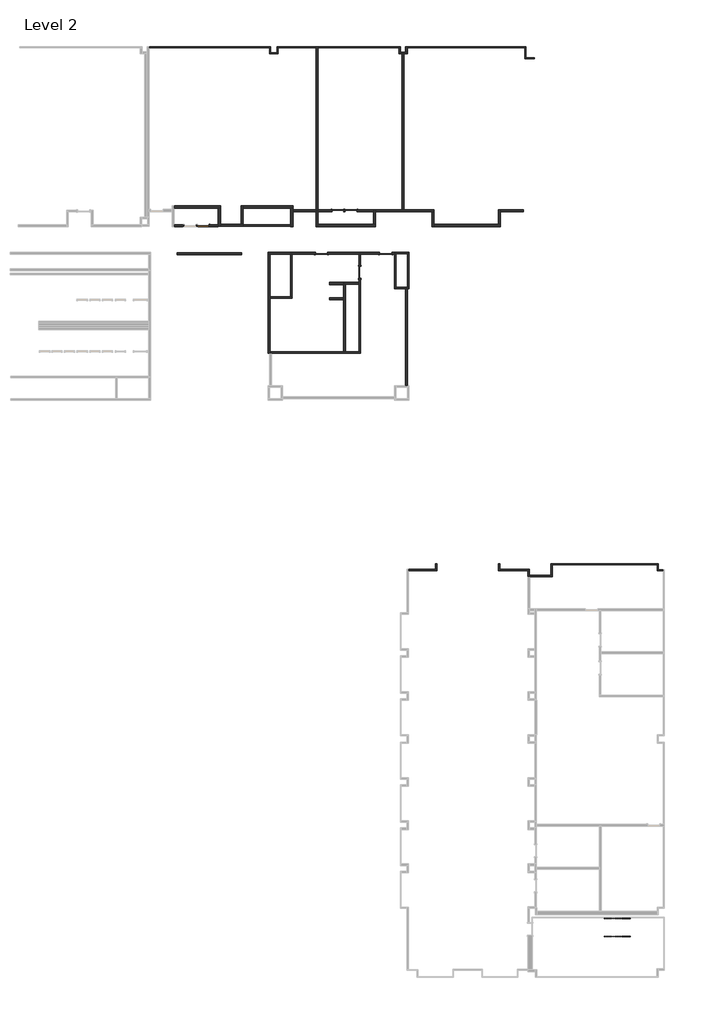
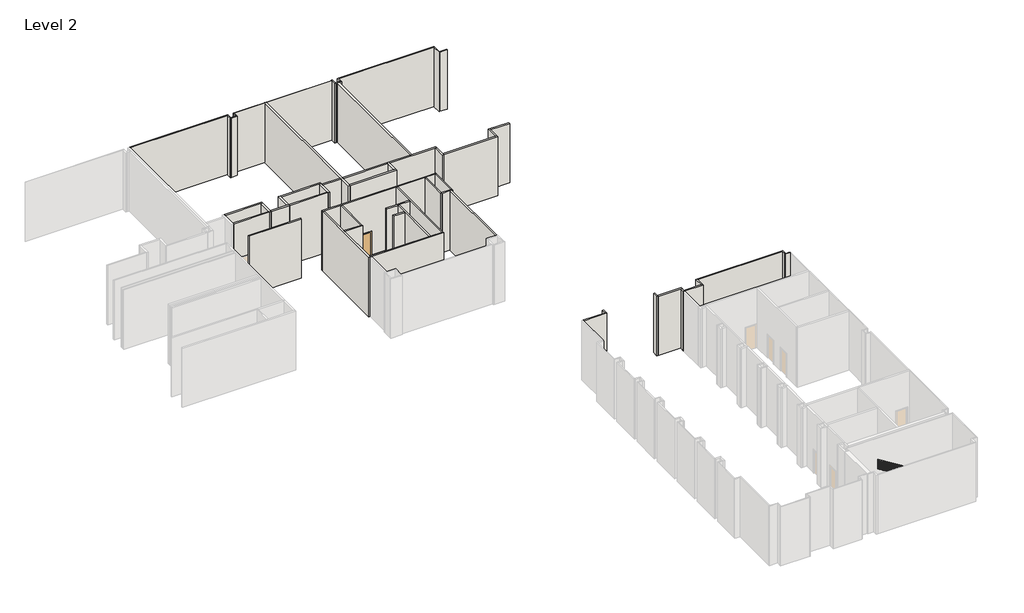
# One storey, part 9 of 9: 56 walls, 6 doors, 2 railings.
"""IFC4 building model written with IfcOpenShell, lengths in millimetres."""

from ifc_helpers import new_model, si_unit, frame, origin, place, context, project, spatial, polyline, outline, extrude, faceted_brep, transform, mapped, element, save
from components import door_7c9e1b45, door_3b0d1d25, handrail_rectangular_8bdb5d3b, handrail_rectangular_f2522c41

model = new_model("IFC4")

# Units and contexts
model_context = context("Model", 3, world=origin())
ifc_project = project(units=[si_unit("LENGTHUNIT", "METRE", prefix="MILLI")], contexts=[model_context])

# Site, building, storey
site = spatial("IfcSite", under=ifc_project)
building = spatial("IfcBuilding", under=site)
storey = spatial("IfcBuildingStorey", under=building, Name="Level 2", Elevation=5486.4)

# Doors
placement = place(None, origin())
door_shape = door_7c9e1b45(model_context)
element("IfcDoor", 1, ObjectType="Single-Flush : 34\" x 84\"", at=placement, inside=storey, context=model_context, shape_type="MappedRepresentation", body=[
    mapped(door_shape, transform((73231.7190091, 23256.6831101, 5486.4), x_axis=(-1.0, 0.0, 0.0), y_axis=(0.0, -1.0, 0.0), z_axis=(0.0, 0.0, 1.0))),
])
door_2_shape = door_3b0d1d25(model_context)
element("IfcDoor", 2, ObjectType="Single-Flush : 34\" x 84\"", at=placement, inside=storey, context=model_context, shape_type="MappedRepresentation", body=[
    mapped(door_2_shape, transform((64859.2254373, 25210.8956105, 5486.4), x_axis=(1.0, 0.0, 0.0), y_axis=(0.0, 1.0, 0.0), z_axis=(0.0, 0.0, 1.0))),
])
element("IfcDoor", 3, ObjectType="Single-Flush : 34\" x 84\"", at=placement, inside=storey, context=model_context, shape_type="MappedRepresentation", body=[
    mapped(door_2_shape, transform((74404.8815091, 26277.6956105, 5486.4), x_axis=(-1.0, 0.0, 0.0), y_axis=(0.0, -1.0, 0.0), z_axis=(0.0, 0.0, 1.0))),
])
element("IfcDoor", 4, ObjectType="Single-Flush : 34\" x 84\"", at=placement, inside=storey, context=model_context, shape_type="MappedRepresentation", body=[
    mapped(door_shape, transform((75319.2815091, 26277.6956105, 5486.4), x_axis=(1.0, 0.0, 0.0), y_axis=(0.0, 1.0, 0.0), z_axis=(0.0, 0.0, 1.0))),
])
element("IfcDoor", 5, ObjectType="Single-Flush : 34\" x 84\"", at=placement, inside=storey, context=model_context, shape_type="MappedRepresentation", body=[
    mapped(door_2_shape, transform((77791.6281574, 23256.6831101, 5486.4), x_axis=(1.0, 0.0, 0.0), y_axis=(0.0, 1.0, 0.0), z_axis=(0.0, 0.0, 1.0))),
])
element("IfcDoor", 6, ObjectType="Single-Flush : 34\" x 84\"", at=placement, inside=storey, context=model_context, shape_type="MappedRepresentation", body=[
    mapped(door_2_shape, transform((75949.5004373, 21910.4831102, 5486.4), x_axis=(0.0, -1.0, 0.0), y_axis=(1.0, 0.0, 0.0), z_axis=(0.0, 0.0, 1.0))),
])

# Railings
handrail_rectangular_shape = handrail_rectangular_8bdb5d3b(model_context)
element("IfcRailing", 7, ObjectType="Handrail - Rectangular", at=placement, inside=storey, context=model_context, shape_type="MappedRepresentation", body=[
    mapped(handrail_rectangular_shape, transform((0.0, 0.0, 0.0), x_axis=(1.0, 0.0, 0.0), y_axis=(0.0, 1.0, 0.0), z_axis=(0.0, 0.0, 1.0))),
])
handrail_rectangular_2_shape = handrail_rectangular_f2522c41(model_context)
element("IfcRailing", 8, ObjectType="Handrail - Rectangular", at=placement, inside=storey, context=model_context, shape_type="MappedRepresentation", body=[
    mapped(handrail_rectangular_2_shape, transform((0.0, 0.0, 0.0), x_axis=(1.0, 0.0, 0.0), y_axis=(0.0, 1.0, 0.0), z_axis=(0.0, 0.0, 1.0))),
])

# Walls
element("IfcWall", 9, ObjectType="N3A/B", at=placement, inside=storey, context=model_context, shape_type="Brep", body=[
    faceted_brep([(62803.4129373, 26453.9081341, 5486.4), (65932.3754373, 26453.9081341, 5486.4), (66087.9504373, 26453.9081341, 5486.4), (66087.9504373, 26453.9081341, 10972.8), (65932.3754373, 26453.9081341, 10972.8), (62803.4129373, 26453.9081341, 10972.8), (62803.4129373, 26609.4831341, 5486.4), (62803.4129373, 26609.4831341, 10972.8), (66087.9504373, 26609.4831341, 10972.8), (66087.9504373, 26609.4831341, 5486.4)], [[[0, 1, 2, 3, 4, 5]], [[6, 7, 8, 9]], [[2, 1, 0, 6, 9]], [[5, 4, 3, 8, 7]], [[3, 2, 9, 8]], [[0, 5, 7, 6]]]),
])
element("IfcWall", 10, ObjectType="N3A/B", at=placement, inside=storey, context=model_context, shape_type="Brep", body=[
    faceted_brep([(65932.3754373, 26453.9081341, 5486.4), (65932.3754373, 25272.8081105, 5486.4), (65932.3754373, 25161.6831105, 5486.4), (65932.3754373, 25161.6831105, 10972.8), (65932.3754373, 25272.8081105, 10972.8), (65932.3754373, 26453.9081341, 10972.8), (66087.9504373, 26453.9081341, 5486.4), (66087.9504373, 26453.9081341, 10972.8), (66087.9504373, 25317.2581105, 10972.8), (66087.9504373, 25161.6831105, 10972.8), (66087.9504373, 25161.6831105, 5486.4), (66087.9504373, 25317.2581105, 5486.4)], [[[0, 1, 2, 3, 4, 5]], [[6, 7, 8, 9, 10, 11]], [[2, 1, 0, 6, 11, 10]], [[5, 4, 3, 9, 8, 7]], [[3, 2, 10, 9]], [[0, 5, 7, 6]]]),
])
element("IfcWall", 11, ObjectType="N3A/B", at=placement, inside=storey, context=model_context, shape_type="Brep", body=[
    faceted_brep([(66087.9504373, 25161.6831105, 5486.4), (67704.0254373, 25161.6831105, 5486.4), (67704.0254373, 25161.6831105, 10972.8), (66087.9504373, 25161.6831105, 10972.8), (66087.9504373, 25317.2581105, 5486.4), (66087.9504373, 25317.2581105, 10972.8), (67548.4504373, 25317.2581105, 10972.8), (67704.0254373, 25317.2581105, 10972.8), (67704.0254373, 25317.2581105, 5486.4), (67548.4504373, 25317.2581105, 5486.4), (67704.0254373, 25264.8706105, 5486.4), (67704.0254373, 25264.8706105, 10972.8)], [[[0, 1, 2, 3]], [[4, 5, 6, 7, 8, 9]], [[1, 0, 4, 9, 8, 10]], [[3, 2, 11, 7, 6, 5]], [[2, 1, 10, 8, 7, 11]], [[0, 3, 5, 4]]]),
])
element("IfcWall", 12, ObjectType="N3A/B", at=placement, inside=storey, context=model_context, shape_type="Brep", body=[
    faceted_brep([(67704.0254373, 25317.2581105, 5486.4), (67704.0254373, 26453.9081341, 5486.4), (67704.0254373, 26609.4831341, 5486.4), (67704.0254373, 26609.4831341, 10972.8), (67704.0254373, 26453.9081341, 10972.8), (67704.0254373, 25317.2581105, 10972.8), (67548.4504373, 25317.2581105, 5486.4), (67548.4504373, 25317.2581105, 10972.8), (67548.4504373, 26609.4831341, 10972.8), (67548.4504373, 26609.4831341, 5486.4)], [[[0, 1, 2, 3, 4, 5]], [[6, 7, 8, 9]], [[2, 1, 0, 6, 9]], [[5, 4, 3, 8, 7]], [[3, 2, 9, 8]], [[0, 5, 7, 6]]]),
])
element("IfcWall", 13, ObjectType="N3A/B", at=placement, inside=storey, context=model_context, shape_type="Brep", body=[
    faceted_brep([(67704.0254373, 26453.9081341, 5486.4), (71055.2193654, 26453.9081341, 5486.4), (71210.7943654, 26453.9081341, 5486.4), (71210.7943654, 26453.9081341, 10972.8), (71055.2193654, 26453.9081341, 10972.8), (67704.0254373, 26453.9081341, 10972.8), (67704.0254373, 26609.4831341, 5486.4), (67704.0254373, 26609.4831341, 10972.8), (71210.7943654, 26609.4831341, 10972.8), (71210.7943654, 26609.4831341, 5486.4)], [[[0, 1, 2, 3, 4, 5]], [[6, 7, 8, 9]], [[2, 1, 0, 6, 9]], [[5, 4, 3, 8, 7]], [[3, 2, 9, 8]], [[0, 5, 7, 6]]]),
])
element("IfcWall", 14, ObjectType="N3A/B", at=placement, inside=storey, context=model_context, shape_type="Brep", body=[
    faceted_brep([(71055.2193654, 26453.9081341, 5486.4), (71055.2193654, 25264.8706105, 5486.4), (71055.2193654, 25156.9206105, 5486.4), (71055.2193654, 25148.9831105, 5486.4), (71055.2193654, 25148.9831105, 10972.8), (71055.2193654, 25156.9206105, 10972.8), (71055.2193654, 25264.8706105, 10972.8), (71055.2193654, 26453.9081341, 10972.8), (71210.7943654, 26453.9081341, 5486.4), (71210.7943654, 26453.9081341, 10972.8), (71210.7943654, 26355.4831105, 10972.8), (71210.7943654, 26199.9081105, 10972.8), (71210.7943654, 25148.9831105, 10972.8), (71210.7943654, 25148.9831105, 5486.4), (71210.7943654, 26199.9081105, 5486.4), (71210.7943654, 26355.4831105, 5486.4)], [[[0, 1, 2, 3, 4, 5, 6, 7]], [[8, 9, 10, 11, 12, 13, 14, 15]], [[3, 2, 1, 0, 8, 15, 14, 13]], [[4, 3, 13, 12]], [[7, 6, 5, 4, 12, 11, 10, 9]], [[0, 7, 9, 8]]]),
])
element("IfcWall", 15, ObjectType="N3A/B", at=placement, inside=storey, context=model_context, shape_type="SweptSolid", body=[
    extrude(outline(polyline([(72836.3943654, 26199.9081105), (71210.7943654, 26199.9081105), (71210.7943654, 26355.4831105), (72836.3943654, 26355.4831105), (72836.3943654, 26199.9081105)])), frame((0.0, 0.0, 5486.4), z_axis=(0.0, 0.0, 1.0), x_axis=(1.0, 0.0, 0.0)), (0.0, 0.0, 1.0), 5486.4),
])
element("IfcWall", 16, ObjectType="N3A/B", at=placement, inside=storey, context=model_context, shape_type="Brep", body=[
    faceted_brep([(72836.3943654, 37874.3831105, 5486.4), (72836.3943654, 26355.4831105, 5486.4), (72836.3943654, 26199.9081105, 5486.4), (72836.3943654, 25147.3956105, 5486.4), (72836.3943654, 25147.3956105, 10972.8), (72836.3943654, 26199.9081105, 10972.8), (72836.3943654, 26355.4831105, 10972.8), (72836.3943654, 37874.3831105, 10972.8), (72991.9693654, 37874.3831105, 5486.4), (72991.9693654, 37874.3831105, 10972.8), (72991.9693654, 26339.6081105, 10972.8), (72991.9693654, 26215.7831105, 10972.8), (72991.9693654, 25302.9706105, 10972.8), (72991.9693654, 25147.3956105, 10972.8), (72991.9693654, 25147.3956105, 5486.4), (72991.9693654, 25302.9706105, 5486.4), (72991.9693654, 26215.7831105, 5486.4), (72991.9693654, 26339.6081105, 5486.4)], [[[0, 1, 2, 3, 4, 5, 6, 7]], [[8, 9, 10, 11, 12, 13, 14, 15, 16, 17]], [[3, 2, 1, 0, 8, 17, 16, 15, 14]], [[7, 6, 5, 4, 13, 12, 11, 10, 9]], [[0, 7, 9, 8]], [[4, 3, 14, 13]]]),
])
element("IfcWall", 17, ObjectType="N3A/B", at=placement, inside=storey, context=model_context, shape_type="Brep", body=[
    faceted_brep([(72991.9693654, 25147.3956105, 5486.4), (77073.4690091, 25147.3956105, 5486.4), (77073.4690091, 25147.3956105, 10972.8), (72991.9693654, 25147.3956105, 10972.8), (72991.9693654, 25302.9706105, 5486.4), (72991.9693654, 25302.9706105, 10972.8), (76917.8940091, 25302.9706105, 10972.8), (77073.4690091, 25302.9706105, 10972.8), (77073.4690091, 25302.9706105, 5486.4), (76917.8940091, 25302.9706105, 5486.4)], [[[0, 1, 2, 3]], [[4, 5, 6, 7, 8, 9]], [[1, 0, 4, 9, 8]], [[3, 2, 7, 6, 5]], [[2, 1, 8, 7]], [[0, 3, 5, 4]]]),
])
element("IfcWall", 18, ObjectType="N3A/B", at=placement, inside=storey, context=model_context, shape_type="Brep", body=[
    faceted_brep([(77073.4690091, 25302.9706105, 5486.4), (77073.4690091, 26199.9081105, 5486.4), (77073.4690091, 26355.4831105, 5486.4), (77073.4690091, 26355.4831105, 10972.8), (77073.4690091, 26199.9081105, 10972.8), (77073.4690091, 25302.9706105, 10972.8), (76917.8940091, 25302.9706105, 5486.4), (76917.8940091, 25302.9706105, 10972.8), (76917.8940091, 26215.7831105, 10972.8), (76917.8940091, 26339.6081105, 10972.8), (76917.8940091, 26355.4831105, 10972.8), (76917.8940091, 26355.4831105, 5486.4), (76917.8940091, 26339.6081105, 5486.4), (76917.8940091, 26215.7831105, 5486.4)], [[[0, 1, 2, 3, 4, 5]], [[6, 7, 8, 9, 10, 11, 12, 13]], [[2, 1, 0, 6, 13, 12, 11]], [[5, 4, 3, 10, 9, 8, 7]], [[3, 2, 11, 10]], [[0, 5, 7, 6]]]),
])
element("IfcWall", 19, ObjectType="N3A/B", at=placement, inside=storey, context=model_context, shape_type="Brep", body=[
    faceted_brep([(77073.4690091, 26199.9081105, 5486.4), (81042.2004372, 26199.9081105, 5486.4), (81197.7754372, 26199.9081105, 5486.4), (81197.7754372, 26199.9081105, 10972.8), (81042.2004372, 26199.9081105, 10972.8), (77073.4690091, 26199.9081105, 10972.8), (77073.4690091, 26355.4831105, 5486.4), (77073.4690091, 26355.4831105, 10972.8), (78932.4129373, 26355.4831105, 10972.8), (79087.9879373, 26355.4831105, 10972.8), (81197.7754372, 26355.4831105, 10972.8), (81197.7754372, 26355.4831105, 5486.4), (79087.9879373, 26355.4831105, 5486.4), (78932.4129373, 26355.4831105, 5486.4)], [[[0, 1, 2, 3, 4, 5]], [[6, 7, 8, 9, 10, 11, 12, 13]], [[2, 1, 0, 6, 13, 12, 11]], [[5, 4, 3, 10, 9, 8, 7]], [[3, 2, 11, 10]], [[0, 5, 7, 6]]]),
])
element("IfcWall", 20, ObjectType="N3A/B", at=placement, inside=storey, context=model_context, shape_type="Brep", body=[
    faceted_brep([(81197.7754372, 25148.9831105, 5486.4), (81197.7754372, 25304.5581105, 5486.4), (81197.7754372, 26199.9081105, 5486.4), (81197.7754372, 26199.9081105, 10972.8), (81197.7754372, 25304.5581105, 10972.8), (81197.7754372, 25148.9831105, 10972.8), (81042.2004372, 25148.9831105, 5486.4), (81042.2004372, 25148.9831105, 10972.8), (81042.2004372, 26199.9081105, 10972.8), (81042.2004372, 26199.9081105, 5486.4)], [[[0, 1, 2, 3, 4, 5]], [[6, 7, 8, 9]], [[2, 1, 0, 6, 9]], [[5, 4, 3, 8, 7]], [[0, 5, 7, 6]], [[3, 2, 9, 8]]]),
])
element("IfcWall", 21, ObjectType="N3A/B", at=placement, inside=storey, context=model_context, shape_type="Brep", body=[
    faceted_brep([(81197.7754372, 25148.9831105, 5486.4), (85919.0004373, 25148.9831105, 5486.4), (85919.0004373, 25148.9831105, 10972.8), (81197.7754372, 25148.9831105, 10972.8), (81197.7754372, 25304.5581105, 5486.4), (81197.7754372, 25304.5581105, 10972.8), (85763.4254373, 25304.5581105, 10972.8), (85919.0004373, 25304.5581105, 10972.8), (85919.0004373, 25304.5581105, 5486.4), (85763.4254373, 25304.5581105, 5486.4)], [[[0, 1, 2, 3]], [[4, 5, 6, 7, 8, 9]], [[1, 0, 4, 9, 8]], [[3, 2, 7, 6, 5]], [[2, 1, 8, 7]], [[0, 3, 5, 4]]]),
])
element("IfcWall", 22, ObjectType="N3A/B", at=placement, inside=storey, context=model_context, shape_type="Brep", body=[
    faceted_brep([(85919.0004373, 25304.5581105, 5486.4), (85919.0004373, 26199.9081105, 5486.4), (85919.0004373, 26355.4831105, 5486.4), (85919.0004373, 26355.4831105, 10972.8), (85919.0004373, 26199.9081105, 10972.8), (85919.0004373, 25304.5581105, 10972.8), (85763.4254373, 25304.5581105, 5486.4), (85763.4254373, 25304.5581105, 10972.8), (85763.4254373, 26355.4831105, 10972.8), (85763.4254373, 26355.4831105, 5486.4)], [[[0, 1, 2, 3, 4, 5]], [[6, 7, 8, 9]], [[2, 1, 0, 6, 9]], [[5, 4, 3, 8, 7]], [[3, 2, 9, 8]], [[0, 5, 7, 6]]]),
])
element("IfcWall", 23, ObjectType="N3A/B", at=placement, inside=storey, context=model_context, shape_type="SweptSolid", body=[
    extrude(outline(polyline([(87544.6004373, 26199.9081105), (85919.0004373, 26199.9081105), (85919.0004373, 26355.4831105), (87544.6004373, 26355.4831105), (87544.6004373, 26199.9081105)])), frame((0.0, 0.0, 5486.4), z_axis=(0.0, 0.0, 1.0), x_axis=(1.0, 0.0, 0.0)), (0.0, 0.0, 1.0), 5486.4),
])
element("IfcWall", 24, ObjectType="N3A/B", at=placement, inside=storey, context=model_context, shape_type="SweptSolid", body=[
    extrude(outline(polyline([(79087.9879373, 37366.3831105), (79087.9879373, 26355.4831105), (78932.4129373, 26355.4831105), (78932.4129373, 37366.3831105), (79087.9879373, 37366.3831105)])), frame((0.0, 0.0, 5486.4), z_axis=(0.0, 0.0, 1.0), x_axis=(1.0, 0.0, 0.0)), (0.0, 0.0, 1.0), 5486.4),
])
element("IfcWall", 25, ObjectType="N15A/B", at=placement, inside=storey, context=model_context, shape_type="Brep", body=[
    faceted_brep([(79313.4129372, 13896.7831105, 5486.4), (79313.4129372, 20754.7831105, 5486.4), (79313.4129372, 20754.7831105, 10972.8), (79313.4129372, 13896.7831105, 10972.8), (79189.5879372, 13896.7831105, 5486.4), (79189.5879372, 13896.7831105, 10972.8), (79189.5879372, 20754.7831105, 10972.8), (79189.5879372, 20754.7831105, 5486.4), (79308.6504372, 13896.7831105, 5486.4), (79308.6504372, 13896.7831105, 10972.8)], [[[0, 1, 2, 3]], [[4, 5, 6, 7]], [[1, 0, 8, 4, 7]], [[3, 2, 6, 5, 9]], [[0, 3, 9, 5, 4, 8]], [[2, 1, 7, 6]]]),
])
element("IfcWall", 26, ObjectType="N2A/B", at=placement, inside=storey, context=model_context, shape_type="Brep", body=[
    faceted_brep([(65291.0254373, 25148.9831105, 7620.0), (65291.0254373, 25148.9831105, 5486.4), (65932.3754373, 25148.9831105, 5486.4), (65932.3754373, 25148.9831105, 10972.8), (62803.4129373, 25148.9831105, 10972.8), (62803.4129373, 25148.9831105, 5486.4), (63513.0254373, 25148.9831105, 5486.4), (63513.0254373, 25148.9831105, 7620.0), (64376.6254373, 25148.9831105, 7620.0), (64376.6254373, 25148.9831105, 5486.4), (64427.4254373, 25148.9831105, 5486.4), (64427.4254373, 25148.9831105, 7620.0), (65932.3754373, 25272.8081105, 5486.4), (65291.0254373, 25272.8081105, 5486.4), (65291.0254373, 25272.8081105, 7620.0), (64427.4254373, 25272.8081105, 7620.0), (64427.4254373, 25272.8081105, 5486.4), (64376.6254373, 25272.8081105, 5486.4), (64376.6254373, 25272.8081105, 7620.0), (63513.0254373, 25272.8081105, 7620.0), (63513.0254373, 25272.8081105, 5486.4), (62803.4129373, 25272.8081105, 5486.4), (62803.4129373, 25272.8081105, 10972.8), (65932.3754373, 25272.8081105, 10972.8), (65932.3754373, 25161.6831105, 5486.4), (65932.3754373, 25161.6831105, 10972.8)], [[[0, 1, 2, 3, 4, 5, 6, 7, 8, 9, 10, 11]], [[12, 13, 14, 15, 16, 17, 18, 19, 20, 21, 22, 23]], [[21, 20, 6, 5]], [[2, 1, 13, 12, 24]], [[10, 9, 17, 16]], [[4, 3, 25, 23, 22]], [[5, 4, 22, 21]], [[3, 2, 24, 12, 23, 25]], [[7, 6, 20, 19]], [[8, 7, 19, 18]], [[9, 8, 18, 17]], [[14, 13, 1, 0]], [[15, 14, 0, 11]], [[16, 15, 11, 10]]]),
])
element("IfcWall", 27, ObjectType="N2A/B", at=placement, inside=storey, context=model_context, shape_type="SweptSolid", body=[
    extrude(outline(polyline([(5486.4, 72991.9693654), (5486.4, 73973.0815091), (7620.0, 73973.0815091), (7620.0, 74836.6815091), (5486.4, 74836.6815091), (5486.4, 74887.4815091), (7620.0, 74887.4815091), (7620.0, 75751.0815091), (5486.4, 75751.0815091), (5486.4, 76917.8940091), (10972.8, 76917.8940091), (10972.8, 72991.9693654), (5486.4, 72991.9693654)])), frame((0.0, 26215.7831105, 0.0), z_axis=(0.0, 1.0, 0.0), x_axis=(0.0, 0.0, 1.0)), (0.0, 0.0, 1.0), 123.825),
])
element("IfcWall", 28, ObjectType="F1A", at=placement, inside=storey, context=model_context, shape_type="Brep", body=[
    faceted_brep([(78705.4468669, 37868.0331105, 5486.4), (70091.6440091, 37868.0331105, 5486.4), (70091.6440091, 37868.0331105, 10972.8), (78705.4468669, 37868.0331105, 10972.8), (78705.4468669, 37810.8831105, 5486.4), (78705.4468669, 37810.8831105, 10972.8), (70171.0190091, 37810.8831105, 10972.8), (70091.6440091, 37810.8831105, 10972.8), (70091.6440091, 37810.8831105, 5486.4), (70171.0190091, 37810.8831105, 5486.4)], [[[0, 1, 2, 3]], [[4, 5, 6, 7, 8, 9]], [[1, 0, 4, 9, 8]], [[3, 2, 7, 6, 5]], [[2, 1, 8, 7]], [[0, 3, 5, 4]]]),
])
element("IfcWall", 29, ObjectType="F1A", at=placement, inside=storey, context=model_context, shape_type="Brep", body=[
    faceted_brep([(69640.803295, 37868.0331105, 5486.4), (61050.8129373, 37868.0331105, 5486.4), (61050.8129373, 37868.0331105, 10972.8), (69640.803295, 37868.0331105, 10972.8), (69640.803295, 37810.8831105, 5486.4), (69640.803295, 37810.8831105, 10972.8), (69561.428295, 37810.8831105, 10972.8), (61050.8129373, 37810.8831105, 10972.8), (61050.8129373, 37810.8831105, 5486.4), (69561.428295, 37810.8831105, 5486.4)], [[[0, 1, 2, 3]], [[4, 5, 6, 7, 8, 9]], [[1, 0, 4, 9, 8]], [[3, 2, 7, 6, 5]], [[0, 3, 5, 4]], [[2, 1, 8, 7]]]),
])
element("IfcWall", 30, ObjectType="F1A", at=placement, inside=storey, context=model_context, shape_type="SweptSolid", body=[
    extrude(outline(polyline([(79314.9911513, 37868.0331105), (87620.8282944, 37868.0331105), (87620.8282944, 37810.8831105), (79314.9911513, 37810.8831105), (79314.9911513, 37868.0331105)])), frame((0.0, 0.0, 5486.4), z_axis=(0.0, 0.0, 1.0), x_axis=(1.0, 0.0, 0.0)), (0.0, 0.0, 1.0), 5486.4),
])
element("IfcWall", 31, ObjectType="F1A", at=placement, inside=storey, context=model_context, shape_type="SweptSolid", body=[
    extrude(outline(polyline([(89577.6041476, 1292.0331105), (96993.4190091, 1292.0331105), (96993.4190091, 1234.8831105), (89577.6041476, 1234.8831105), (89577.6041476, 1292.0331105)])), frame((0.0, 0.0, 5486.4), z_axis=(0.0, 0.0, 1.0), x_axis=(1.0, 0.0, 0.0)), (0.0, 0.0, 1.0), 5486.4),
])
element("IfcWall", 32, ObjectType="F1B", at=placement, inside=storey, context=model_context, shape_type="Brep", body=[
    faceted_brep([(69561.428295, 37810.8831105, 5486.4), (69561.428295, 37366.3831105, 5486.4), (69561.428295, 37366.3831105, 10972.8), (69561.428295, 37810.8831105, 10972.8), (69640.803295, 37810.8831105, 5486.4), (69640.803295, 37810.8831105, 10972.8), (69640.803295, 37445.7581105, 10972.8), (69640.803295, 37366.3831105, 10972.8), (69640.803295, 37366.3831105, 5486.4), (69640.803295, 37445.7581105, 5486.4)], [[[0, 1, 2, 3]], [[4, 5, 6, 7, 8, 9]], [[1, 0, 4, 9, 8]], [[3, 2, 7, 6, 5]], [[2, 1, 8, 7]], [[0, 3, 5, 4]]]),
])
element("IfcWall", 33, ObjectType="F1B", at=placement, inside=storey, context=model_context, shape_type="Brep", body=[
    faceted_brep([(69640.803295, 37366.3831105, 5486.4), (70171.0190091, 37366.3831105, 5486.4), (70171.0190091, 37366.3831105, 10972.8), (69640.803295, 37366.3831105, 10972.8), (69640.803295, 37445.7581105, 5486.4), (69640.803295, 37445.7581105, 10972.8), (70091.6440091, 37445.7581105, 10972.8), (70171.0190091, 37445.7581105, 10972.8), (70171.0190091, 37445.7581105, 5486.4), (70091.6440091, 37445.7581105, 5486.4)], [[[0, 1, 2, 3]], [[4, 5, 6, 7, 8, 9]], [[1, 0, 4, 9, 8]], [[3, 2, 7, 6, 5]], [[2, 1, 8, 7]], [[0, 3, 5, 4]]]),
])
element("IfcWall", 34, ObjectType="F1B", at=placement, inside=storey, context=model_context, shape_type="SweptSolid", body=[
    extrude(outline(polyline([(70171.0190091, 37810.8831105), (70171.0190091, 37445.7581105), (70091.6440091, 37445.7581105), (70091.6440091, 37810.8831105), (70171.0190091, 37810.8831105)])), frame((0.0, 0.0, 5486.4), z_axis=(0.0, 0.0, 1.0), x_axis=(1.0, 0.0, 0.0)), (0.0, 0.0, 1.0), 5486.4),
])
element("IfcWall", 35, ObjectType="F1B", at=placement, inside=storey, context=model_context, shape_type="Brep", body=[
    faceted_brep([(87620.8282944, 37868.0331105, 5486.4), (87620.8282944, 37810.8831105, 5486.4), (87620.8282944, 37010.5319141, 5486.4), (87620.8282944, 37010.5319141, 10972.8), (87620.8282944, 37810.8831105, 10972.8), (87620.8282944, 37868.0331105, 10972.8), (87700.2032944, 37868.0331105, 5486.4), (87700.2032944, 37868.0331105, 10972.8), (87700.2032944, 37089.9069141, 10972.8), (87700.2032944, 37010.5319141, 10972.8), (87700.2032944, 37010.5319141, 5486.4), (87700.2032944, 37089.9069141, 5486.4)], [[[0, 1, 2, 3, 4, 5]], [[6, 7, 8, 9, 10, 11]], [[2, 1, 0, 6, 11, 10]], [[5, 4, 3, 9, 8, 7]], [[3, 2, 10, 9]], [[0, 5, 7, 6]]]),
])
element("IfcWall", 36, ObjectType="F1B", at=placement, inside=storey, context=model_context, shape_type="SweptSolid", body=[
    extrude(outline(polyline([(88322.4754373, 37010.5319141), (87700.2032944, 37010.5319141), (87700.2032944, 37089.9069141), (88322.4754373, 37089.9069141), (88322.4754373, 37010.5319141)])), frame((0.0, 0.0, 5486.4), z_axis=(0.0, 0.0, 1.0), x_axis=(1.0, 0.0, 0.0)), (0.0, 0.0, 1.0), 5486.4),
])
element("IfcWall", 37, ObjectType="F1B", at=placement, inside=storey, context=model_context, shape_type="Brep", body=[
    faceted_brep([(97437.9190091, 869.7581105, 5486.4), (97072.7940091, 869.7581105, 5486.4), (96993.4190091, 869.7581105, 5486.4), (96993.4190091, 869.7581105, 10972.8), (97072.7940091, 869.7581105, 10972.8), (97437.9190091, 869.7581105, 10972.8), (97437.9190091, 790.3831105, 5486.4), (97437.9190091, 790.3831105, 10972.8), (96993.4190091, 790.3831105, 10972.8), (96993.4190091, 790.3831105, 5486.4)], [[[0, 1, 2, 3, 4, 5]], [[6, 7, 8, 9]], [[2, 1, 0, 6, 9]], [[5, 4, 3, 8, 7]], [[3, 2, 9, 8]], [[0, 5, 7, 6]]]),
])
element("IfcWall", 38, ObjectType="F1B", at=placement, inside=storey, context=model_context, shape_type="Brep", body=[
    faceted_brep([(97072.7940091, 869.7581105, 5486.4), (97072.7940091, 1292.0331105, 5486.4), (97072.7940091, 1292.0331105, 10972.8), (97072.7940091, 869.7581105, 10972.8), (96993.4190091, 869.7581105, 5486.4), (96993.4190091, 869.7581105, 10972.8), (96993.4190091, 1234.8831105, 10972.8), (96993.4190091, 1292.0331105, 10972.8), (96993.4190091, 1292.0331105, 5486.4), (96993.4190091, 1234.8831105, 5486.4)], [[[0, 1, 2, 3]], [[4, 5, 6, 7, 8, 9]], [[1, 0, 4, 9, 8]], [[3, 2, 7, 6, 5]], [[2, 1, 8, 7]], [[0, 3, 5, 4]]]),
])
element("IfcWall", 39, ObjectType="F1C", at=placement, inside=storey, context=model_context, shape_type="Brep", body=[
    faceted_brep([(79416.6004372, 23320.1831101, 5486.4), (78401.2281574, 23320.1831101, 5486.4), (78401.2281574, 23320.1831101, 10972.8), (79416.6004372, 23320.1831101, 10972.8), (79416.6004372, 23212.2331101, 5486.4), (79416.6004372, 23212.2331101, 10972.8), (79308.6504372, 23212.2331101, 10972.8), (78509.1781574, 23212.2331101, 10972.8), (78401.2281574, 23212.2331101, 10972.8), (78401.2281574, 23212.2331101, 5486.4), (78509.1781574, 23212.2331101, 5486.4), (79308.6504372, 23212.2331101, 5486.4), (78401.2281574, 23318.5956101, 5486.4), (78401.2281574, 23318.5956101, 10972.8)], [[[0, 1, 2, 3]], [[4, 5, 6, 7, 8, 9, 10, 11]], [[1, 0, 4, 11, 10, 9, 12]], [[3, 2, 13, 8, 7, 6, 5]], [[2, 1, 12, 9, 8, 13]], [[0, 3, 5, 4]]]),
])
element("IfcWall", 40, ObjectType="F1C", at=placement, inside=storey, context=model_context, shape_type="Brep", body=[
    faceted_brep([(78401.2281574, 23212.2331101, 5486.4), (78401.2281574, 23194.7706101, 5486.4), (78401.2281574, 20754.7831105, 5486.4), (78401.2281574, 20754.7831105, 10972.8), (78401.2281574, 23194.7706101, 10972.8), (78401.2281574, 23212.2331101, 10972.8), (78509.1781574, 23212.2331101, 5486.4), (78509.1781574, 23212.2331101, 10972.8), (78509.1781574, 20862.7331105, 10972.8), (78509.1781574, 20754.7831105, 10972.8), (78509.1781574, 20754.7831105, 5486.4), (78509.1781574, 20862.7331105, 5486.4)], [[[0, 1, 2, 3, 4, 5]], [[6, 7, 8, 9, 10, 11]], [[2, 1, 0, 6, 11, 10]], [[5, 4, 3, 9, 8, 7]], [[3, 2, 10, 9]], [[0, 5, 7, 6]]]),
])
element("IfcWall", 41, ObjectType="F1C", at=placement, inside=storey, context=model_context, shape_type="Brep", body=[
    faceted_brep([(78509.1781574, 20754.7831105, 5486.4), (79189.5879372, 20754.7831105, 5486.4), (79313.4129372, 20754.7831105, 5486.4), (79416.6004372, 20754.7831105, 5486.4), (79416.6004372, 20754.7831105, 10972.8), (79313.4129372, 20754.7831105, 10972.8), (79189.5879372, 20754.7831105, 10972.8), (78509.1781574, 20754.7831105, 10972.8), (78509.1781574, 20862.7331105, 5486.4), (78509.1781574, 20862.7331105, 10972.8), (79308.6504372, 20862.7331105, 10972.8), (79416.6004372, 20862.7331105, 10972.8), (79416.6004372, 20862.7331105, 5486.4), (79308.6504372, 20862.7331105, 5486.4)], [[[0, 1, 2, 3, 4, 5, 6, 7]], [[8, 9, 10, 11, 12, 13]], [[3, 2, 1, 0, 8, 13, 12]], [[7, 6, 5, 4, 11, 10, 9]], [[4, 3, 12, 11]], [[0, 7, 9, 8]]]),
])
element("IfcWall", 42, ObjectType="F1C", at=placement, inside=storey, context=model_context, shape_type="SweptSolid", body=[
    extrude(outline(polyline([(79416.6004372, 23212.2331101), (79416.6004372, 20862.7331105), (79308.6504372, 20862.7331105), (79308.6504372, 23212.2331101), (79416.6004372, 23212.2331101)])), frame((0.0, 0.0, 5486.4), z_axis=(0.0, 0.0, 1.0), x_axis=(1.0, 0.0, 0.0)), (0.0, 0.0, 1.0), 5486.4),
])
element("IfcWall", 43, ObjectType="F1C", at=placement, inside=storey, context=model_context, shape_type="Brep", body=[
    faceted_brep([(67704.0254373, 25156.9206105, 5486.4), (71055.2193654, 25156.9206105, 5486.4), (71055.2193654, 25156.9206105, 10972.8), (67704.0254373, 25156.9206105, 10972.8), (67704.0254373, 25264.8706105, 5486.4), (67704.0254373, 25264.8706105, 10972.8), (71055.2193654, 25264.8706105, 10972.8), (71055.2193654, 25264.8706105, 5486.4), (67704.0254373, 25161.6831105, 5486.4), (67704.0254373, 25161.6831105, 10972.8)], [[[0, 1, 2, 3]], [[4, 5, 6, 7]], [[1, 0, 8, 4, 7]], [[3, 2, 6, 5, 9]], [[0, 3, 9, 5, 4, 8]], [[2, 1, 7, 6]]]),
])
element("IfcWall", 44, ObjectType="F2A", at=placement, inside=storey, context=model_context, shape_type="Brep", body=[
    faceted_brep([(85766.6267878, 1298.3831105, 5486.4), (85766.6267878, 790.3831105, 5486.4), (85766.6267878, 790.3831105, 10972.8), (85766.6267878, 1298.3831105, 10972.8), (85874.5767878, 1298.3831105, 5486.4), (85874.5767878, 1298.3831105, 10972.8), (85874.5767878, 898.3331105, 10972.8), (85874.5767878, 790.3831105, 10972.8), (85874.5767878, 790.3831105, 5486.4), (85874.5767878, 898.3331105, 5486.4)], [[[0, 1, 2, 3]], [[4, 5, 6, 7, 8, 9]], [[1, 0, 4, 9, 8]], [[3, 2, 7, 6, 5]], [[0, 3, 5, 4]], [[2, 1, 8, 7]]]),
])
element("IfcWall", 45, ObjectType="F2A", at=placement, inside=storey, context=model_context, shape_type="Brep", body=[
    faceted_brep([(85874.5767878, 790.3831105, 5486.4), (87857.3379373, 790.3831105, 5486.4), (87965.2879373, 790.3831105, 5486.4), (87965.2879373, 790.3831105, 10972.8), (87857.3379373, 790.3831105, 10972.8), (85874.5767878, 790.3831105, 10972.8), (85874.5767878, 898.3331105, 5486.4), (85874.5767878, 898.3331105, 10972.8), (87965.2879373, 898.3331105, 10972.8), (87965.2879373, 898.3331105, 5486.4)], [[[0, 1, 2, 3, 4, 5]], [[6, 7, 8, 9]], [[2, 1, 0, 6, 9]], [[5, 4, 3, 8, 7]], [[3, 2, 9, 8]], [[0, 5, 7, 6]]]),
])
element("IfcWall", 46, ObjectType="F2A", at=placement, inside=storey, context=model_context, shape_type="Brep", body=[
    faceted_brep([(87857.3379373, 790.3831105, 5486.4), (87857.3379373, 380.8081105, 5486.4), (87857.3379373, 380.8081105, 10972.8), (87857.3379373, 790.3831105, 10972.8), (87965.2879373, 790.3831105, 5486.4), (87965.2879373, 790.3831105, 10972.8), (87965.2879373, 491.9331105, 10972.8), (87965.2879373, 383.9831105, 10972.8), (87965.2879373, 380.8081105, 10972.8), (87965.2879373, 380.8081105, 5486.4), (87965.2879373, 383.9831105, 5486.4), (87965.2879373, 491.9331105, 5486.4)], [[[0, 1, 2, 3]], [[4, 5, 6, 7, 8, 9, 10, 11]], [[1, 0, 4, 11, 10, 9]], [[2, 1, 9, 8]], [[3, 2, 8, 7, 6, 5]], [[0, 3, 5, 4]]]),
])
element("IfcWall", 47, ObjectType="F2A", at=placement, inside=storey, context=model_context, shape_type="Brep", body=[
    faceted_brep([(87965.2879373, 383.9831105, 5486.4), (89577.6041476, 383.9831105, 5486.4), (89577.6041476, 383.9831105, 10972.8), (87965.2879373, 383.9831105, 10972.8), (87965.2879373, 491.9331105, 5486.4), (87965.2879373, 491.9331105, 10972.8), (89469.6541476, 491.9331105, 10972.8), (89577.6041476, 491.9331105, 10972.8), (89577.6041476, 491.9331105, 5486.4), (89469.6541476, 491.9331105, 5486.4)], [[[0, 1, 2, 3]], [[4, 5, 6, 7, 8, 9]], [[1, 0, 4, 9, 8]], [[3, 2, 7, 6, 5]], [[2, 1, 8, 7]], [[0, 3, 5, 4]]]),
])
element("IfcWall", 48, ObjectType="F2A", at=placement, inside=storey, context=model_context, shape_type="Brep", body=[
    faceted_brep([(89577.6041476, 491.9331105, 5486.4), (89577.6041476, 1234.8831105, 5486.4), (89577.6041476, 1292.0331105, 5486.4), (89577.6041476, 1298.3831105, 5486.4), (89577.6041476, 1298.3831105, 10972.8), (89577.6041476, 1292.0331105, 10972.8), (89577.6041476, 1234.8831105, 10972.8), (89577.6041476, 491.9331105, 10972.8), (89469.6541476, 491.9331105, 5486.4), (89469.6541476, 491.9331105, 10972.8), (89469.6541476, 1298.3831105, 10972.8), (89469.6541476, 1298.3831105, 5486.4)], [[[0, 1, 2, 3, 4, 5, 6, 7]], [[8, 9, 10, 11]], [[3, 2, 1, 0, 8, 11]], [[4, 3, 11, 10]], [[7, 6, 5, 4, 10, 9]], [[0, 7, 9, 8]]]),
])
element("IfcWall", 49, ObjectType="F2A", at=placement, inside=storey, context=model_context, shape_type="Brep", body=[
    faceted_brep([(79378.5190091, 790.3831105, 5486.4), (81397.8190091, 790.3831105, 5486.4), (81397.8190091, 790.3831105, 10972.8), (79378.5190091, 790.3831105, 10972.8), (79378.5190091, 898.3331105, 5486.4), (79378.5190091, 898.3331105, 10972.8), (81289.8690091, 898.3331105, 10972.8), (81397.8190091, 898.3331105, 10972.8), (81397.8190091, 898.3331105, 5486.4), (81289.8690091, 898.3331105, 5486.4)], [[[0, 1, 2, 3]], [[4, 5, 6, 7, 8, 9]], [[1, 0, 4, 9, 8]], [[3, 2, 7, 6, 5]], [[2, 1, 8, 7]], [[0, 3, 5, 4]]]),
])
element("IfcWall", 50, ObjectType="F2A", at=placement, inside=storey, context=model_context, shape_type="SweptSolid", body=[
    extrude(outline(polyline([(81397.8190091, 1298.3831105), (81397.8190091, 898.3331105), (81289.8690091, 898.3331105), (81289.8690091, 1298.3831105), (81397.8190091, 1298.3831105)])), frame((0.0, 0.0, 5486.4), z_axis=(0.0, 0.0, 1.0), x_axis=(1.0, 0.0, 0.0)), (0.0, 0.0, 1.0), 5486.4),
])
element("IfcWall", 51, ObjectType="F4A", at=placement, inside=storey, context=model_context, shape_type="Brep", body=[
    faceted_brep([(78705.4468669, 37885.4956105, 5486.4), (78705.4468669, 37868.0331105, 5486.4), (78705.4468669, 37810.8831105, 5486.4), (78705.4468669, 37366.3831105, 5486.4), (78705.4468669, 37366.3831105, 10972.8), (78705.4468669, 37810.8831105, 10972.8), (78705.4468669, 37868.0331105, 10972.8), (78705.4468669, 37885.4956105, 10972.8), (78829.2718669, 37885.4956105, 5486.4), (78829.2718669, 37885.4956105, 10972.8), (78829.2718669, 37490.2081105, 10972.8), (78829.2718669, 37366.3831105, 10972.8), (78829.2718669, 37366.3831105, 5486.4), (78829.2718669, 37490.2081105, 5486.4)], [[[0, 1, 2, 3, 4, 5, 6, 7]], [[8, 9, 10, 11, 12, 13]], [[3, 2, 1, 0, 8, 13, 12]], [[7, 6, 5, 4, 11, 10, 9]], [[0, 7, 9, 8]], [[4, 3, 12, 11]]]),
])
element("IfcWall", 52, ObjectType="F4A", at=placement, inside=storey, context=model_context, shape_type="Brep", body=[
    faceted_brep([(78829.2718669, 37366.3831105, 5486.4), (78932.4129373, 37366.3831105, 5486.4), (79087.9879373, 37366.3831105, 5486.4), (79314.9911513, 37366.3831105, 5486.4), (79314.9911513, 37366.3831105, 10972.8), (79087.9879373, 37366.3831105, 10972.8), (78932.4129373, 37366.3831105, 10972.8), (78829.2718669, 37366.3831105, 10972.8), (78829.2718669, 37490.2081105, 5486.4), (78829.2718669, 37490.2081105, 10972.8), (79191.1661513, 37490.2081105, 10972.8), (79314.9911513, 37490.2081105, 10972.8), (79314.9911513, 37490.2081105, 5486.4), (79191.1661513, 37490.2081105, 5486.4)], [[[0, 1, 2, 3, 4, 5, 6, 7]], [[8, 9, 10, 11, 12, 13]], [[3, 2, 1, 0, 8, 13, 12]], [[7, 6, 5, 4, 11, 10, 9]], [[4, 3, 12, 11]], [[0, 7, 9, 8]]]),
])
element("IfcWall", 53, ObjectType="F4A", at=placement, inside=storey, context=model_context, shape_type="Brep", body=[
    faceted_brep([(79314.9911513, 37490.2081105, 5486.4), (79314.9911513, 37810.8831105, 5486.4), (79314.9911513, 37868.0331105, 5486.4), (79314.9911513, 37868.0331105, 10972.8), (79314.9911513, 37810.8831105, 10972.8), (79314.9911513, 37490.2081105, 10972.8), (79191.1661513, 37490.2081105, 5486.4), (79191.1661513, 37490.2081105, 10972.8), (79191.1661513, 37868.0331105, 10972.8), (79191.1661513, 37868.0331105, 5486.4)], [[[0, 1, 2, 3, 4, 5]], [[6, 7, 8, 9]], [[2, 1, 0, 6, 9]], [[5, 4, 3, 8, 7]], [[3, 2, 9, 8]], [[0, 5, 7, 6]]]),
])
element("IfcWall", 54, ObjectType="N11B", at=placement, inside=storey, context=model_context, shape_type="SweptSolid", body=[
    extrude(outline(polyline([(74809.67544, 21027.8331102), (73819.07544, 21027.8331102), (73819.07544, 21211.9831102), (74809.67544, 21211.9831102), (74809.67544, 21027.8331102)])), frame((0.0, 0.0, 5486.4), z_axis=(0.0, 0.0, 1.0), x_axis=(1.0, 0.0, 0.0)), (0.0, 0.0, 1.0), 5486.4),
])
element("IfcWall", 55, ObjectType="N11C", at=placement, inside=storey, context=model_context, shape_type="SweptSolid", body=[
    extrude(outline(polyline([(74809.67544, 19981.6706102), (73819.07544, 19981.6706102), (73819.07544, 20121.3706102), (74809.67544, 20121.3706102), (74809.67544, 19981.6706102)])), frame((0.0, 0.0, 5486.4), z_axis=(0.0, 0.0, 1.0), x_axis=(1.0, 0.0, 0.0)), (0.0, 0.0, 1.0), 5486.4),
])
element("IfcWall", 56, ObjectType="N1A", at=placement, inside=storey, context=model_context, shape_type="Brep", body=[
    faceted_brep([(78223.4281574, 23194.7706101, 7620.0), (78223.4281574, 23194.7706101, 5486.4), (78401.2281574, 23194.7706101, 5486.4), (78401.2281574, 23194.7706101, 10972.8), (76011.4129373, 23194.7706101, 10972.8), (75887.5879373, 23194.7706101, 10972.8), (71160.0315091, 23194.7706101, 10972.8), (71036.2065091, 23194.7706101, 10972.8), (69585.2315091, 23194.7706101, 10972.8), (69461.4065091, 23194.7706101, 10972.8), (69461.4065091, 23194.7706101, 5486.4), (69585.2315091, 23194.7706101, 5486.4), (71036.2065091, 23194.7706101, 5486.4), (71160.0315091, 23194.7706101, 5486.4), (72799.9190091, 23194.7706101, 5486.4), (72799.9190091, 23194.7706101, 7620.0), (73663.5190091, 23194.7706101, 7620.0), (73663.5190091, 23194.7706101, 5486.4), (75887.5879373, 23194.7706101, 5486.4), (76011.4129373, 23194.7706101, 5486.4), (77359.8281574, 23194.7706101, 5486.4), (77359.8281574, 23194.7706101, 7620.0), (78401.2281574, 23318.5956101, 5486.4), (78223.4281574, 23318.5956101, 5486.4), (78223.4281574, 23318.5956101, 7620.0), (77359.8281574, 23318.5956101, 7620.0), (77359.8281574, 23318.5956101, 5486.4), (73663.5190091, 23318.5956101, 5486.4), (73663.5190091, 23318.5956101, 7620.0), (72799.9190091, 23318.5956101, 7620.0), (72799.9190091, 23318.5956101, 5486.4), (69461.4065091, 23318.5956101, 5486.4), (69461.4065091, 23318.5956101, 10972.8), (78401.2281574, 23318.5956101, 10972.8), (78401.2281574, 23212.2331101, 5486.4), (78401.2281574, 23212.2331101, 10972.8)], [[[0, 1, 2, 3, 4, 5, 6, 7, 8, 9, 10, 11, 12, 13, 14, 15, 16, 17, 18, 19, 20, 21]], [[22, 23, 24, 25, 26, 27, 28, 29, 30, 31, 32, 33]], [[31, 30, 14, 13, 12, 11, 10]], [[2, 1, 23, 22, 34]], [[20, 19, 18, 17, 27, 26]], [[9, 8, 7, 6, 5, 4, 3, 35, 33, 32]], [[10, 9, 32, 31]], [[3, 2, 34, 22, 33, 35]], [[15, 14, 30, 29]], [[16, 15, 29, 28]], [[17, 16, 28, 27]], [[24, 23, 1, 0]], [[25, 24, 0, 21]], [[26, 25, 21, 20]]]),
])
element("IfcWall", 57, ObjectType="N1A", at=placement, inside=storey, context=model_context, shape_type="SweptSolid", body=[
    extrude(outline(polyline([(67580.2190091, 23161.4331102), (63008.2190091, 23161.4331102), (63008.2190091, 23285.2581102), (67580.2190091, 23285.2581102), (67580.2190091, 23161.4331102)])), frame((0.0, 0.0, 5486.4), z_axis=(0.0, 0.0, 1.0), x_axis=(1.0, 0.0, 0.0)), (0.0, 0.0, 1.0), 5486.4),
])
element("IfcWall", 58, ObjectType="N1A", at=placement, inside=storey, context=model_context, shape_type="Brep", body=[
    faceted_brep([(69461.4065091, 23194.7706101, 5486.4), (69461.4065091, 16182.7831119, 5486.4), (69461.4065091, 16182.7831119, 10972.8), (69461.4065091, 23194.7706101, 10972.8), (69585.2315091, 23194.7706101, 5486.4), (69585.2315091, 23194.7706101, 10972.8), (69585.2315091, 20191.2288536, 10972.8), (69585.2315091, 20067.4038536, 10972.8), (69585.2315091, 16308.1956114, 10972.8), (69585.2315091, 16184.3706114, 10972.8), (69585.2315091, 16182.7831119, 10972.8), (69585.2315091, 16182.7831119, 5486.4), (69585.2315091, 16184.3706114, 5486.4), (69585.2315091, 16308.1956114, 5486.4), (69585.2315091, 20067.4038536, 5486.4), (69585.2315091, 20191.2288536, 5486.4)], [[[0, 1, 2, 3]], [[4, 5, 6, 7, 8, 9, 10, 11, 12, 13, 14, 15]], [[1, 0, 4, 15, 14, 13, 12, 11]], [[2, 1, 11, 10]], [[3, 2, 10, 9, 8, 7, 6, 5]], [[0, 3, 5, 4]]]),
])
element("IfcWall", 59, ObjectType="N1A", at=placement, inside=storey, context=model_context, shape_type="Brep", body=[
    faceted_brep([(76011.4129373, 16308.1956114, 5486.4), (75887.5879373, 16308.1956114, 5486.4), (74935.0879373, 16308.1956114, 5486.4), (74811.2629373, 16308.1956114, 5486.4), (69585.2315091, 16308.1956114, 5486.4), (69585.2315091, 16308.1956114, 10972.8), (74811.2629373, 16308.1956114, 10972.8), (74935.0879373, 16308.1956114, 10972.8), (75887.5879373, 16308.1956114, 10972.8), (76011.4129373, 16308.1956114, 10972.8), (76011.4129373, 16184.3706114, 5486.4), (76011.4129373, 16184.3706114, 10972.8), (69686.8315091, 16184.3706114, 10972.8), (69585.2315091, 16184.3706114, 10972.8), (69585.2315091, 16184.3706114, 5486.4), (69686.8315091, 16184.3706114, 5486.4)], [[[0, 1, 2, 3, 4, 5, 6, 7, 8, 9]], [[10, 11, 12, 13, 14, 15]], [[4, 3, 2, 1, 0, 10, 15, 14]], [[9, 8, 7, 6, 5, 13, 12, 11]], [[0, 9, 11, 10]], [[5, 4, 14, 13]]]),
])
element("IfcWall", 60, ObjectType="N1A", at=placement, inside=storey, context=model_context, shape_type="Brep", body=[
    faceted_brep([(69585.2315091, 20067.4038536, 5486.4), (71160.0315091, 20067.4038536, 5486.4), (71160.0315091, 20067.4038536, 10972.8), (69585.2315091, 20067.4038536, 10972.8), (69585.2315091, 20191.2288536, 5486.4), (69585.2315091, 20191.2288536, 10972.8), (71036.2065091, 20191.2288536, 10972.8), (71160.0315091, 20191.2288536, 10972.8), (71160.0315091, 20191.2288536, 5486.4), (71036.2065091, 20191.2288536, 5486.4)], [[[0, 1, 2, 3]], [[4, 5, 6, 7, 8, 9]], [[1, 0, 4, 9, 8]], [[3, 2, 7, 6, 5]], [[2, 1, 8, 7]], [[0, 3, 5, 4]]]),
])
element("IfcWall", 61, ObjectType="N1A", at=placement, inside=storey, context=model_context, shape_type="SweptSolid", body=[
    extrude(outline(polyline([(71160.0315091, 23194.7706101), (71160.0315091, 20191.2288536), (71036.2065091, 20191.2288536), (71036.2065091, 23194.7706101), (71160.0315091, 23194.7706101)])), frame((0.0, 0.0, 5486.4), z_axis=(0.0, 0.0, 1.0), x_axis=(1.0, 0.0, 0.0)), (0.0, 0.0, 1.0), 5486.4),
])
element("IfcWall", 62, ObjectType="N1A", at=placement, inside=storey, context=model_context, shape_type="Brep", body=[
    faceted_brep([(76011.4129373, 16308.1956114, 5486.4), (76011.4129373, 21478.6831102, 5486.4), (76011.4129373, 21478.6831102, 7620.0), (76011.4129373, 22342.2831102, 7620.0), (76011.4129373, 22342.2831102, 5486.4), (76011.4129373, 23194.7706101, 5486.4), (76011.4129373, 23194.7706101, 10972.8), (76011.4129373, 16308.1956114, 10972.8), (75887.5879373, 21478.6831102, 7620.0), (75887.5879373, 21478.6831102, 5486.4), (75887.5879373, 21210.3956102, 5486.4), (75887.5879373, 21086.5706102, 5486.4), (75887.5879373, 16308.1956114, 5486.4), (75887.5879373, 16308.1956114, 10972.8), (75887.5879373, 21086.5706102, 10972.8), (75887.5879373, 21210.3956102, 10972.8), (75887.5879373, 23194.7706101, 10972.8), (75887.5879373, 23194.7706101, 5486.4), (75887.5879373, 22342.2831102, 5486.4), (75887.5879373, 22342.2831102, 7620.0)], [[[0, 1, 2, 3, 4, 5, 6, 7]], [[8, 9, 10, 11, 12, 13, 14, 15, 16, 17, 18, 19]], [[12, 11, 10, 9, 1, 0]], [[18, 17, 5, 4]], [[7, 6, 16, 15, 14, 13]], [[0, 7, 13, 12]], [[6, 5, 17, 16]], [[2, 1, 9, 8]], [[3, 2, 8, 19]], [[4, 3, 19, 18]]]),
])
element("IfcWall", 63, ObjectType="N1A", at=placement, inside=storey, context=model_context, shape_type="Brep", body=[
    faceted_brep([(75887.5879373, 21210.3956102, 5486.4), (74809.67544, 21210.3956102, 5486.4), (74809.67544, 21210.3956102, 10972.8), (75887.5879373, 21210.3956102, 10972.8), (75887.5879373, 21086.5706102, 5486.4), (75887.5879373, 21086.5706102, 10972.8), (74935.0879373, 21086.5706102, 10972.8), (74811.2629373, 21086.5706102, 10972.8), (74809.67544, 21086.5706102, 10972.8), (74809.67544, 21086.5706102, 5486.4), (74811.2629373, 21086.5706102, 5486.4), (74935.0879373, 21086.5706102, 5486.4)], [[[0, 1, 2, 3]], [[4, 5, 6, 7, 8, 9, 10, 11]], [[1, 0, 4, 11, 10, 9]], [[2, 1, 9, 8]], [[3, 2, 8, 7, 6, 5]], [[0, 3, 5, 4]]]),
])
element("IfcWall", 64, ObjectType="N1A", at=placement, inside=storey, context=model_context, shape_type="SweptSolid", body=[
    extrude(outline(polyline([(74811.2629373, 16308.1956114), (74811.2629373, 21086.5706102), (74935.0879373, 21086.5706102), (74935.0879373, 16308.1956114), (74811.2629373, 16308.1956114)])), frame((0.0, 0.0, 5486.4), z_axis=(0.0, 0.0, 1.0), x_axis=(1.0, 0.0, 0.0)), (0.0, 0.0, 1.0), 5486.4),
])

save(model, "model.ifc")
